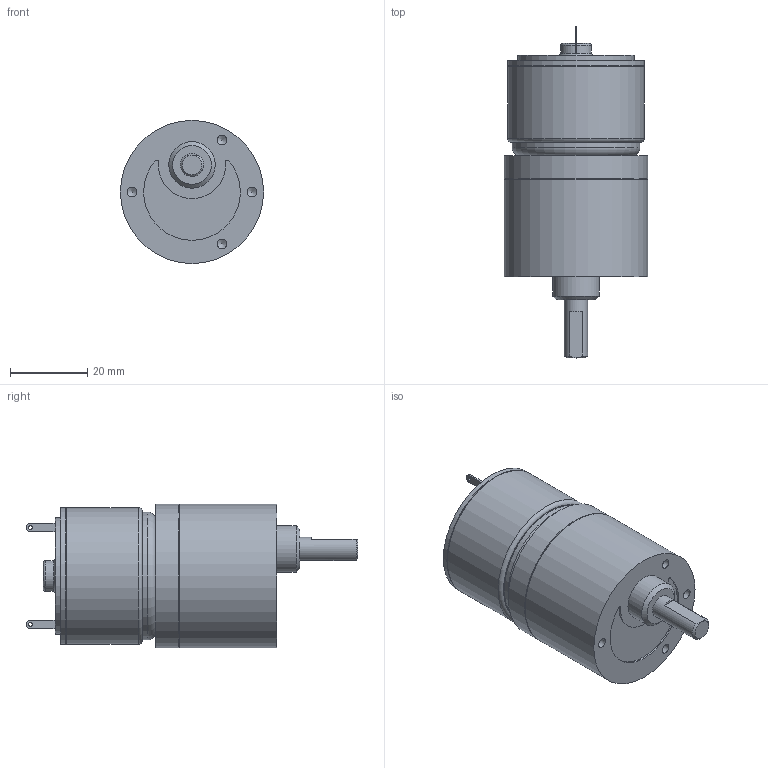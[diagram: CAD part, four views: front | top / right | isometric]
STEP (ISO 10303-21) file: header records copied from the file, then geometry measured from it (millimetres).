
FILE_DESCRIPTION((''),'2;1');
FILE_NAME('C:\Documents and Settings\SSEGAWA\デスクトップ\TP-3526G-HM-5.STP','2013-07-09T17:33:34',('SSEGAWA'),(''),'Autodesk Inventor 2010','Autodesk Inventor 2010','');
FILE_SCHEMA(('CONFIG_CONTROL_DESIGN'));
Length unit declared in the file: millimetre
Products named in the file (3): tp_3526g_hm_5; hm_5; tp_3526g
Assembly tree (2 placements, depth 2):
  tp_3526g_hm_5
    hm_5
    tp_3526g
Bounding box: 37 x 85.8 x 37 mm (x, y, z)
Volume: 59465 mm3; surface area: 11488.2 mm2
Topology: 2 solids, 2 shells, 75 faces, 157 edges, 103 vertices
Faces by surface type: plane 29, cylinder 22, bspline 17, torus 4, cone 3
Full cylindrical faces by diameter (mm): 2 x1, 2.4 x1, 5 x2, 6 x1, 8 x1, 10 x1, 12 x1, 30 x1, 33 x1, 35 x1, 35.4 x2, 36.6 x1, 37 x2
Entity records: 2055 total; most frequent: CARTESIAN_POINT 639, DIRECTION 295, ORIENTED_EDGE 200, EDGE_LOOP 135, AXIS2_PLACEMENT_3D 134, EDGE_CURVE 100, VERTEX_POINT 85, FACE_OUTER_BOUND 75
